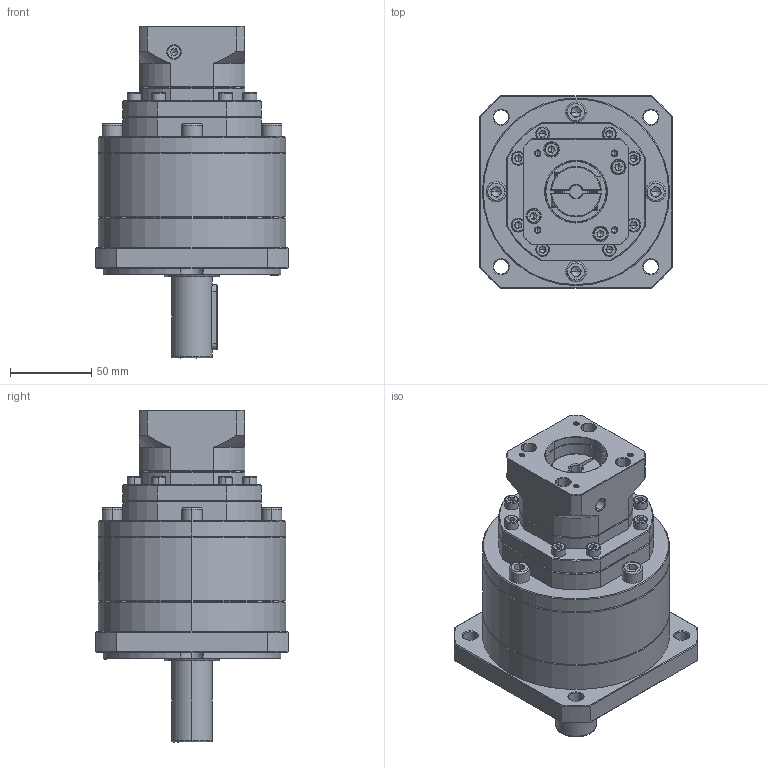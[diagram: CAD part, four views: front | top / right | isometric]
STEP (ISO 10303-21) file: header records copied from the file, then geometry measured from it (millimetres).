
FILE_DESCRIPTION (( 'STEP AP214' ), '1' );
FILE_NAME ('ZF120A-D25-L3-P2-8-38.1-47.14X47.14-M4.step', '2023-08-27T06:30:13', ( '' ), ( '' ), 'SwSTEP 2.0', 'SolidWorks 2016', '' );
FILE_SCHEMA (( 'AUTOMOTIVE_DESIGN' ));
Length unit declared in the file: millimetre
Products named in the file (1): ZF120A-D25-L3-P2-8-38.1-47.14X47.14-M4
Bounding box: 118 x 118 x 204 mm (x, y, z)
Volume: 1214972.8 mm3; surface area: 116307.1 mm2
Topology: 7 solids, 7 shells, 2348 faces, 6255 edges, 4017 vertices
Faces by surface type: plane 1179, bspline 435, cylinder 411, cone 301, torus 22
Entity records: 122774 total; most frequent: CARTESIAN_POINT 43870, ORIENTED_EDGE 12402, DIRECTION 9194, EDGE_CURVE 6201, VERTEX_POINT 4017, LINE 3312, VECTOR 3312, AXIS2_PLACEMENT_3D 2941
